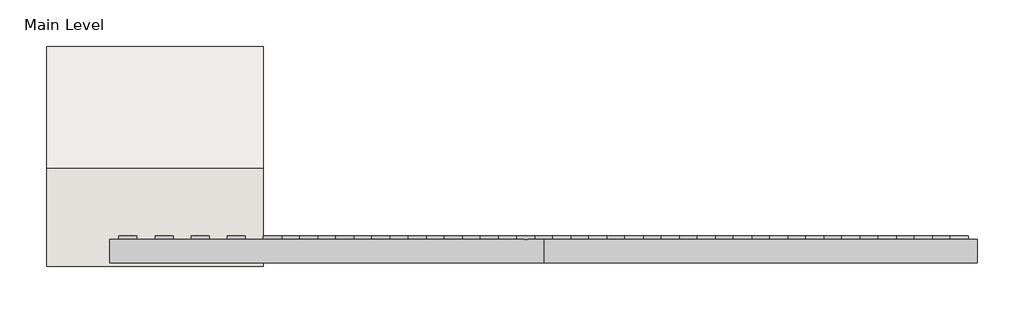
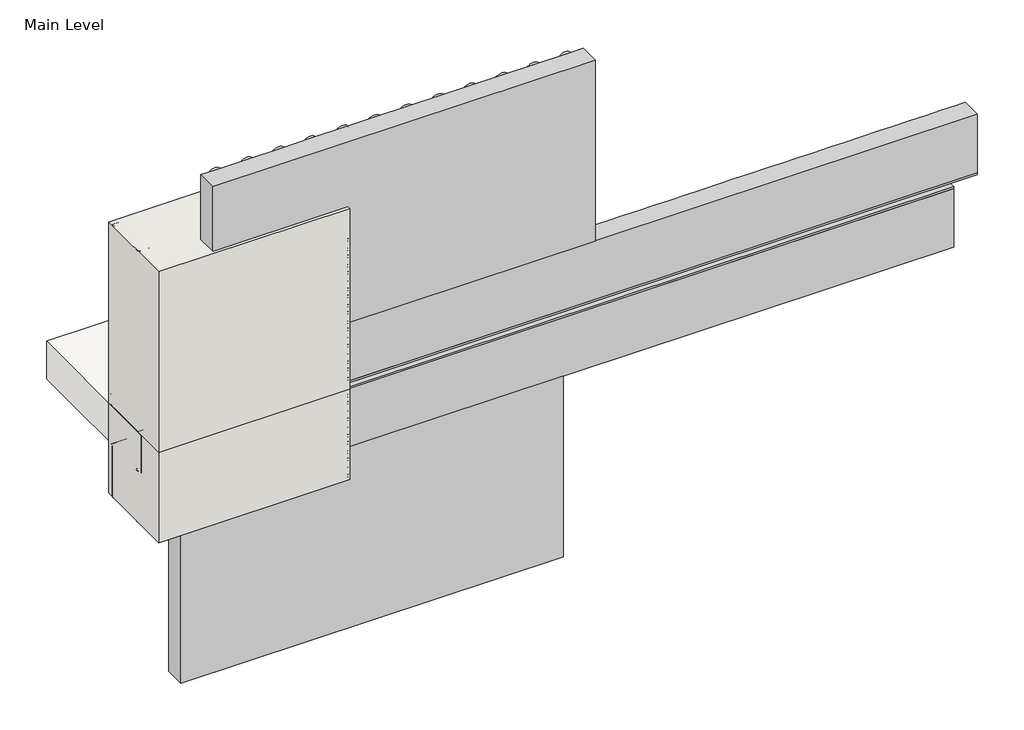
# One storey, incomplete: 23 proxies, 2 walls, 1 slab.
"""IFC4 building model written with IfcOpenShell, lengths in millimetres."""

from ifc_helpers import new_model, si_unit, frame, origin, origin_with_axes, place, context, project, spatial, polyline, outline, extrude, transform, mapped, element, save
from components import generic_models_31547c53, generic_models_0bbfdc8f, generic_models_1e1ad44f, generic_models_7dd17a53, generic_models_441de798, generic_models_e46152ee, generic_models_0b6704b8, generic_models_9cce42f9, generic_models_31d49adb, generic_models_9b5b6e1e, proxy_4c3b85e5, proxy_50213ae0, proxy_cc65e3d2, proxy_5fc139d0, proxy_8f7a9f0e, proxy_e2cf066e, wood_blocking_c9818c35

model = new_model("IFC4")

# Units and contexts
model_context = context("Model", 3, world=origin())
ifc_project = project(units=[si_unit("LENGTHUNIT", "METRE", prefix="MILLI")], contexts=[model_context])

# Site, building, storey
site = spatial("IfcSite", under=ifc_project)
building = spatial("IfcBuilding", under=site)
storey = spatial("IfcBuildingStorey", under=building, Name="Main Level", Elevation=0.0)

# Proxies
placement = place(None, origin())
generic_models_shape = generic_models_31547c53(model_context)
element("IfcBuildingElementProxy", 1, Name="Durabond Generic Model Sealant Vent : Durabond Generic Model Sealant Vent", ObjectType="Durabond Generic Model Sealant Vent : Durabond Generic Model Sealant Vent", at=placement, inside=storey, context=model_context, shape_type="MappedRepresentation", body=[
    mapped(generic_models_shape, transform((26865.4101773, 546.8432813, 8.5594788), x_axis=(1.0, 0.0, 0.0), y_axis=(0.0, 0.08715574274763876, -0.9961946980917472), z_axis=(0.0, 0.9961946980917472, 0.08715574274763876))),
])
generic_models_2_shape = generic_models_0bbfdc8f(model_context)
generic_models_3_shape = generic_models_1e1ad44f(model_context)
generic_models_4_shape = generic_models_7dd17a53(model_context)
generic_models_5_shape = generic_models_441de798(model_context)
element("IfcBuildingElementProxy", 2, Name="CRAi Generic Model Mesh Piece Face Based : CRAi Generic Model Mesh Piece Face Based", ObjectType="CRAi Generic Model Mesh Piece Face Based : CRAi Generic Model Mesh Piece Face Based", at=placement, inside=storey, context=model_context, shape_type="MappedRepresentation", body=[
    mapped(generic_models_2_shape, transform((26933.6726773, 541.9066297, 261.6963215), x_axis=(-1.0, 0.0, 0.0), y_axis=(0.0, 0.0, -1.0), z_axis=(0.0, -1.0, 0.0))),
    mapped(generic_models_3_shape, transform((26933.6726773, 541.9066297, 261.6963215), x_axis=(-1.0, 0.0, 0.0), y_axis=(0.0, 0.0, -1.0), z_axis=(0.0, -1.0, 0.0))),
    mapped(generic_models_4_shape, transform((26933.6726773, 541.9066297, 261.6963215), x_axis=(-1.0, 0.0, 0.0), y_axis=(0.0, 0.0, -1.0), z_axis=(0.0, -1.0, 0.0))),
    mapped(generic_models_5_shape, transform((26933.6726773, 541.9066297, 261.6963215), x_axis=(-1.0, 0.0, 0.0), y_axis=(0.0, 0.0, -1.0), z_axis=(0.0, -1.0, 0.0))),
])
generic_models_6_shape = generic_models_e46152ee(model_context)
element("IfcBuildingElementProxy", 3, Name="Durabond Generic Model Insulation Adhesive Flat : Durabond Generic Model Insulation Adhesive Flat", ObjectType="Durabond Generic Model Insulation Adhesive Flat : Durabond Generic Model Insulation Adhesive Flat", at=placement, inside=storey, context=model_context, shape_type="MappedRepresentation", body=[
    mapped(generic_models_6_shape, transform((26717.7726773, 627.6316297, 76.2), x_axis=(1.0, 0.0, 0.0), y_axis=(0.0, 1.0, 0.0), z_axis=(0.0, 0.0, 1.0))),
])
element("IfcBuildingElementProxy", 4, Name="Durabond Generic Model Insulation Adhesive Flat : Durabond Generic Model Insulation Adhesive Flat", ObjectType="Durabond Generic Model Insulation Adhesive Flat : Durabond Generic Model Insulation Adhesive Flat", at=placement, inside=storey, context=model_context, shape_type="MappedRepresentation", body=[
    mapped(generic_models_6_shape, transform((26819.3726773, 627.6316297, 76.2), x_axis=(1.0, 0.0, 0.0), y_axis=(0.0, 1.0, 0.0), z_axis=(0.0, 0.0, 1.0))),
])
element("IfcBuildingElementProxy", 5, Name="Durabond Generic Model Insulation Adhesive Flat : Durabond Generic Model Insulation Adhesive Flat", ObjectType="Durabond Generic Model Insulation Adhesive Flat : Durabond Generic Model Insulation Adhesive Flat", at=placement, inside=storey, context=model_context, shape_type="MappedRepresentation", body=[
    mapped(generic_models_6_shape, transform((26920.9726773, 627.6316297, 76.2), x_axis=(1.0, 0.0, 0.0), y_axis=(0.0, 1.0, 0.0), z_axis=(0.0, 0.0, 1.0))),
])
element("IfcBuildingElementProxy", 6, Name="Durabond Generic Model Insulation Adhesive Flat : Durabond Generic Model Insulation Adhesive Flat", ObjectType="Durabond Generic Model Insulation Adhesive Flat : Durabond Generic Model Insulation Adhesive Flat", at=placement, inside=storey, context=model_context, shape_type="MappedRepresentation", body=[
    mapped(generic_models_6_shape, transform((27022.5726773, 627.6316297, 76.2), x_axis=(1.0, 0.0, 0.0), y_axis=(0.0, 1.0, 0.0), z_axis=(0.0, 0.0, 1.0))),
])
generic_models_7_shape = generic_models_0b6704b8(model_context)
element("IfcBuildingElementProxy", 7, Name="Durabond Generic Model Insulation Adhesive Flat : Durabond Generic Model Insulation Adhesive Flat", ObjectType="Durabond Generic Model Insulation Adhesive Flat : Durabond Generic Model Insulation Adhesive Flat", at=placement, inside=storey, context=model_context, shape_type="MappedRepresentation", body=[
    mapped(generic_models_7_shape, transform((26717.7726773, 627.6316297, -304.8), x_axis=(1.0, 0.0, 0.0), y_axis=(0.0, 1.0, 0.0), z_axis=(0.0, 0.0, 1.0))),
])
element("IfcBuildingElementProxy", 8, Name="Durabond Generic Model Insulation Adhesive Flat : Durabond Generic Model Insulation Adhesive Flat", ObjectType="Durabond Generic Model Insulation Adhesive Flat : Durabond Generic Model Insulation Adhesive Flat", at=placement, inside=storey, context=model_context, shape_type="MappedRepresentation", body=[
    mapped(generic_models_7_shape, transform((26819.3726773, 627.6316297, -304.8), x_axis=(1.0, 0.0, 0.0), y_axis=(0.0, 1.0, 0.0), z_axis=(0.0, 0.0, 1.0))),
])
element("IfcBuildingElementProxy", 9, Name="Durabond Generic Model Insulation Adhesive Flat : Durabond Generic Model Insulation Adhesive Flat", ObjectType="Durabond Generic Model Insulation Adhesive Flat : Durabond Generic Model Insulation Adhesive Flat", at=placement, inside=storey, context=model_context, shape_type="MappedRepresentation", body=[
    mapped(generic_models_7_shape, transform((26920.9726773, 627.6316297, -304.8), x_axis=(1.0, 0.0, 0.0), y_axis=(0.0, 1.0, 0.0), z_axis=(0.0, 0.0, 1.0))),
])
element("IfcBuildingElementProxy", 10, Name="Durabond Generic Model Insulation Adhesive Flat : Durabond Generic Model Insulation Adhesive Flat", ObjectType="Durabond Generic Model Insulation Adhesive Flat : Durabond Generic Model Insulation Adhesive Flat", at=placement, inside=storey, context=model_context, shape_type="MappedRepresentation", body=[
    mapped(generic_models_7_shape, transform((27022.5726773, 627.6316297, -304.8), x_axis=(1.0, 0.0, 0.0), y_axis=(0.0, 1.0, 0.0), z_axis=(0.0, 0.0, 1.0))),
])
generic_models_8_shape = generic_models_9cce42f9(model_context)
generic_models_9_shape = generic_models_31d49adb(model_context)
generic_models_10_shape = generic_models_9b5b6e1e(model_context)
element("IfcBuildingElementProxy", 11, Name="CRAi Generic Model Mesh Piece Face Based : CRAi Generic Model Mesh Piece Face Based", ObjectType="CRAi Generic Model Mesh Piece Face Based : CRAi Generic Model Mesh Piece Face Based", at=placement, inside=storey, context=model_context, shape_type="MappedRepresentation", body=[
    mapped(generic_models_8_shape, transform((26933.6726773, 541.9066297, -153.2314536), x_axis=(-1.0, 0.0, 0.0), y_axis=(0.0, 0.0, -1.0), z_axis=(0.0, -1.0, 0.0))),
    mapped(generic_models_9_shape, transform((26933.6726773, 541.9066297, -153.2314536), x_axis=(-1.0, 0.0, 0.0), y_axis=(0.0, 0.0, -1.0), z_axis=(0.0, -1.0, 0.0))),
    mapped(generic_models_10_shape, transform((26933.6726773, 541.9066297, -153.2314536), x_axis=(-1.0, 0.0, 0.0), y_axis=(0.0, 0.0, -1.0), z_axis=(0.0, -1.0, 0.0))),
])
proxy_shape = proxy_4c3b85e5(model_context)
element("IfcBuildingElementProxy", 12, Name="Durabond Generic Model Quantum Select 5-0 Boundary Board : 3\"", ObjectType="Durabond Generic Model Quantum Select 5-0 Boundary Board : 3\"", at=placement, inside=storey, context=model_context, shape_type="MappedRepresentation", body=[
    mapped(proxy_shape, transform((27809.9726773, 624.4566297, -100.0879072), x_axis=(-1.0, 0.0, 0.0), y_axis=(0.0, 0.0, -1.0), z_axis=(0.0, -1.0, 0.0))),
])
proxy_2_shape = proxy_50213ae0(model_context)
element("IfcBuildingElementProxy", 13, Name="Durabond Generic Model Quantum Select 5-0 Insulation Board : 3\"", ObjectType="Durabond Generic Model Quantum Select 5-0 Insulation Board : 3\"", at=placement, inside=storey, context=model_context, shape_type="MappedRepresentation", body=[
    mapped(proxy_2_shape, transform((27276.5726773, 624.4566297, 523.392643), x_axis=(1.0, 0.0, 0.0), y_axis=(0.0, 0.0, 1.0), z_axis=(0.0, -1.0, 0.0))),
])
element("IfcBuildingElementProxy", 14, Name="Durabond Generic Model Quantum Select 5-0 Insulation Board : 3\"", ObjectType="Durabond Generic Model Quantum Select 5-0 Insulation Board : 3\"", at=placement, inside=storey, context=model_context, shape_type="MappedRepresentation", body=[
    mapped(proxy_2_shape, transform((27174.9726773, 624.4566297, -506.4879072), x_axis=(1.0, 0.0, 0.0), y_axis=(0.0, 0.0, 1.0), z_axis=(0.0, -1.0, 0.0))),
])
proxy_3_shape = proxy_cc65e3d2(model_context)
element("IfcBuildingElementProxy", 15, Name="Durabond Generic Model Quantum Select 5-0 Vent Board : 3\"", ObjectType="Durabond Generic Model Quantum Select 5-0 Vent Board : 3\"", at=placement, inside=storey, context=model_context, shape_type="MappedRepresentation", body=[
    mapped(proxy_3_shape, transform((27886.1726773, 624.4566297, 116.992643), x_axis=(1.0, 0.0, 0.0), y_axis=(0.0, 0.0, 1.0), z_axis=(0.0, -1.0, 0.0))),
])
proxy_4_shape = proxy_5fc139d0(model_context)
element("IfcBuildingElementProxy", 16, Name="Durabond Generic Model Barrier Seam Tape Straight : 4\" Barrier Seam Tape", ObjectType="Durabond Generic Model Barrier Seam Tape Straight : 4\" Barrier Seam Tape", at=placement, inside=storey, context=model_context, shape_type="MappedRepresentation", body=[
    mapped(proxy_4_shape, transform((26514.5726773, 633.1878797, 50.8), x_axis=(0.0, 0.0, 1.0), y_axis=(0.0, -1.0, 0.0), z_axis=(1.0, 0.0, 0.0))),
])
element("IfcBuildingElementProxy", 17, Name="Durabond Generic Model Barrier Seam Tape Straight : 4\" Barrier Seam Tape", ObjectType="Durabond Generic Model Barrier Seam Tape Straight : 4\" Barrier Seam Tape", at=placement, inside=storey, context=model_context, shape_type="MappedRepresentation", body=[
    mapped(proxy_4_shape, transform((26514.5726773, 633.1878797, -76.2), x_axis=(0.0, 0.0, 1.0), y_axis=(0.0, -1.0, 0.0), z_axis=(1.0, 0.0, 0.0))),
])
proxy_5_shape = proxy_8f7a9f0e(model_context)
element("IfcBuildingElementProxy", 18, Name="CRAi Generic Model Metal Stud : Metal Framing Stud - 1\" x 3.5\"", ObjectType="CRAi Generic Model Metal Stud : Metal Framing Stud - 1\" x 3.5\"", at=placement, inside=storey, context=model_context, shape_type="MappedRepresentation", body=[
    mapped(proxy_5_shape, transform((26508.2226773, 726.0566297, 0.0), x_axis=(-1.0, 0.0, 0.0), y_axis=(0.0, -1.0, 0.0), z_axis=(0.0, 0.0, 1.0))),
])
element("IfcBuildingElementProxy", 19, Name="CRAi Generic Model Metal Stud : Metal Framing Stud - 1\" x 3.5\"", ObjectType="CRAi Generic Model Metal Stud : Metal Framing Stud - 1\" x 3.5\"", at=placement, inside=storey, context=model_context, shape_type="MappedRepresentation", body=[
    mapped(proxy_5_shape, transform((26914.6226773, 726.0566297, 0.0), x_axis=(-1.0, 0.0, 0.0), y_axis=(0.0, -1.0, 0.0), z_axis=(0.0, 0.0, 1.0))),
])
proxy_6_shape = proxy_e2cf066e(model_context)
element("IfcBuildingElementProxy", 20, Name="CRAi Generic Model Metal Stud : Metal Framing Stud - 1\" x 3.5\"", ObjectType="CRAi Generic Model Metal Stud : Metal Framing Stud - 1\" x 3.5\"", at=placement, inside=storey, context=model_context, shape_type="MappedRepresentation", body=[
    mapped(proxy_6_shape, transform((26508.2226773, 726.0566297, 0.0), x_axis=(-1.0, 0.0, 0.0), y_axis=(0.0, -1.0, 0.0), z_axis=(0.0, 0.0, 1.0))),
])
element("IfcBuildingElementProxy", 21, Name="CRAi Generic Model Metal Stud : Metal Framing Stud - 1\" x 3.5\"", ObjectType="CRAi Generic Model Metal Stud : Metal Framing Stud - 1\" x 3.5\"", at=placement, inside=storey, context=model_context, shape_type="MappedRepresentation", body=[
    mapped(proxy_6_shape, transform((26914.6226773, 726.0566297, 0.0), x_axis=(-1.0, 0.0, 0.0), y_axis=(0.0, -1.0, 0.0), z_axis=(0.0, 0.0, 1.0))),
])
wood_blocking_shape = wood_blocking_c9818c35(model_context)
element("IfcBuildingElementProxy", 22, Name="CRAi Generic Model Line Based Metal Framing Track : Wood Blocking", ObjectType="CRAi Generic Model Line Based Metal Framing Track : Wood Blocking", at=placement, inside=storey, context=model_context, shape_type="MappedRepresentation", body=[
    mapped(wood_blocking_shape, transform((26489.1726773, 649.8566297, 0.0), x_axis=(1.0, 0.0, 0.0), y_axis=(0.0, 1.0, 0.0), z_axis=(0.0, 0.0, 1.0))),
])
element("IfcBuildingElementProxy", 23, Name="CRAi Generic Model Line Based Metal Framing Track : Wood Blocking", ObjectType="CRAi Generic Model Line Based Metal Framing Track : Wood Blocking", at=placement, inside=storey, context=model_context, shape_type="MappedRepresentation", body=[
    mapped(wood_blocking_shape, transform((26489.1726773, 802.2566297, -127.0), x_axis=(1.0, 0.0, 0.0), y_axis=(0.0, -1.0, 0.0), z_axis=(0.0, 0.0, -1.0))),
])

# Slab
element("IfcSlab", 24, ObjectType="CRAi Concrete Floor", at=placement, inside=storey, context=model_context, shape_type="SweptSolid", body=[
    extrude(outline(polyline([(27098.7726773, 633.9816297), (26489.1726773, 633.9816297), (26489.1726773, 1157.8566297), (27098.7726773, 1157.8566297), (27098.7726773, 633.9816297)])), frame((0.0, 0.0, -127.0), z_axis=(0.0, 0.0, 1.0), x_axis=(1.0, 0.0, 0.0)), (0.0, 0.0, 1.0), 127.0),
])

# Walls
element("IfcWall", 25, ObjectType="189mm (7.5”) EIFS Field Applied on Mtl. Stud Layer - 50mm Grooved Insulation Board Metal Stud Wall", at=placement, inside=storey, context=model_context, shape_type="SweptSolid", body=[
    extrude(outline(polyline([(27098.7726773, 538.7316297), (26489.1726773, 538.7316297), (26489.1726773, 814.9566297), (27098.7726773, 814.9566297), (27098.7726773, 538.7316297)])), origin_with_axes(), (0.0, 0.0, 1.0), 609.6),
])
element("IfcWall", 26, ObjectType="189mm (7.5”) EIFS Field Applied on Mtl. Stud Layer - 50mm Grooved Insulation Board Metal Stud Wall", at=placement, inside=storey, context=model_context, shape_type="SweptSolid", body=[
    extrude(outline(polyline([(27098.7726773, 538.7316297), (26489.1726773, 538.7316297), (26489.1726773, 814.9566297), (27098.7726773, 814.9566297), (27098.7726773, 538.7316297)])), frame((0.0, 0.0, -304.8), z_axis=(0.0, 0.0, 1.0), x_axis=(1.0, 0.0, 0.0)), (0.0, 0.0, 1.0), 304.8),
])

save(model, "model.ifc")
